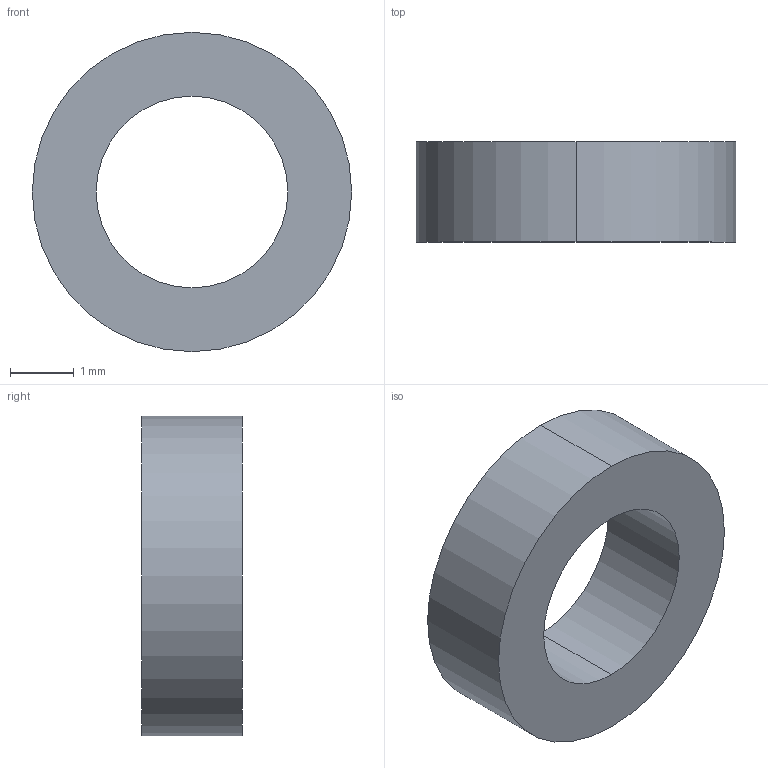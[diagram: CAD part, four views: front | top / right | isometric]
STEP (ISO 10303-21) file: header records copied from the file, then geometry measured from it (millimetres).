
FILE_DESCRIPTION (( 'STEP AP214' ), '1' );
FILE_NAME ('PCB_Support_1.57mm.STEP', '2025-05-05T23:11:25', ( '' ), ( '' ), 'SwSTEP 2.0', 'SolidWorks 2024', '' );
FILE_SCHEMA (( 'AUTOMOTIVE_DESIGN' ));
Length unit declared in the file: millimetre
Products named in the file (1): PCB_Support_1.57mm
Bounding box: 5 x 1.57 x 5 mm (x, y, z)
Volume: 19.7 mm3; surface area: 64.6 mm2
Topology: 1 solids, 1 shells, 6 faces, 12 edges, 8 vertices
Faces by surface type: cylinder 4, plane 2
Entity records: 191 total; most frequent: DIRECTION 34, CARTESIAN_POINT 27, ORIENTED_EDGE 24, AXIS2_PLACEMENT_3D 15, EDGE_CURVE 12, VERTEX_POINT 8, CIRCLE 8, EDGE_LOOP 8
